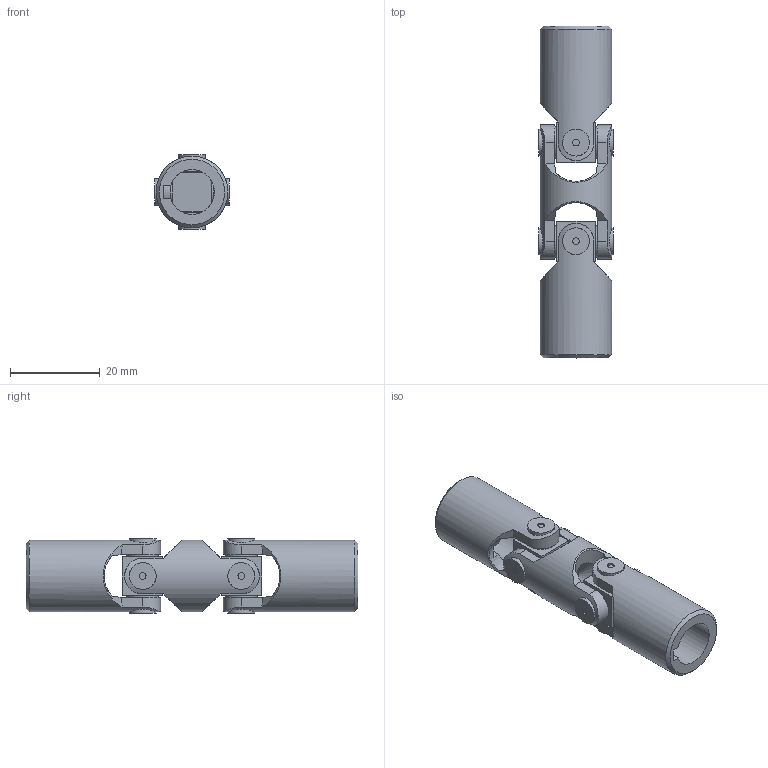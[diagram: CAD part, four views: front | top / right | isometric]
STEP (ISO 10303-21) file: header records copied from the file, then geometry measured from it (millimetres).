
FILE_DESCRIPTION(/* description */ (''),/* implementation_level */ '2;1');
FILE_NAME(/* name */ '\\SRV2016\Societa\Stefano\Disegni 3D\00Catalogo 3D\02Doppi GD-GBD\SGBD102C.stp',/* time_stamp */ '2021-11-22T17:00:00+01:00',/* author */ ('acquisti'),/* organization */ (''),/* preprocessor_version */ 'ST-DEVELOPER v15.6',/* originating_system */ 'Autodesk Inventor 2015',/* authorisation */ '');
FILE_SCHEMA (('AUTOMOTIVE_DESIGN { 1 0 10303 214 3 1 1 }'));
Length unit declared in the file: millimetre
Products named in the file (4): 01G MOD; 01-02G SFE; 03GB MOC; Ø16_03GBD-00_SGBD1000
Assembly tree (5 placements, depth 2):
  Ø16_03GBD-00_SGBD1000
    01G MOD
    01-02G SFE  x2
    03GB MOC  x2
Bounding box: 16.7 x 74 x 16.7 mm (x, y, z)
Volume: 9021.8 mm3; surface area: 7186.7 mm2
Topology: 5 solids, 5 shells, 145 faces, 371 edges, 254 vertices
Faces by surface type: plane 80, cylinder 39, cone 20, torus 6
Full cylindrical faces by diameter (mm): 1.5 x8, 6 x8, 7 x8, 8.5 x2, 16 x3
Entity records: 3382 total; most frequent: CARTESIAN_POINT 1172, ORIENTED_EDGE 426, DIRECTION 423, EDGE_CURVE 213, AXIS2_PLACEMENT_3D 181, VERTEX_POINT 159, EDGE_LOOP 140, FACE_OUTER_BOUND 98
